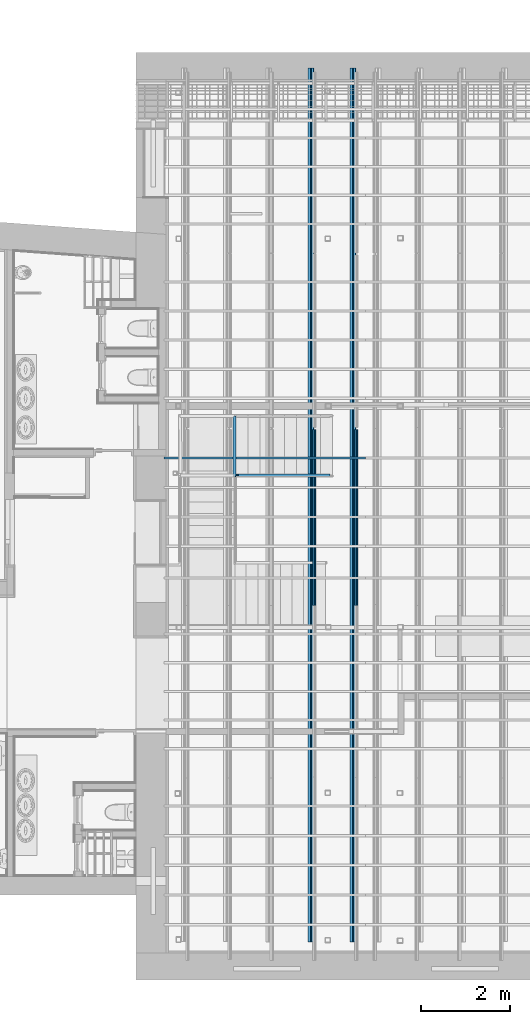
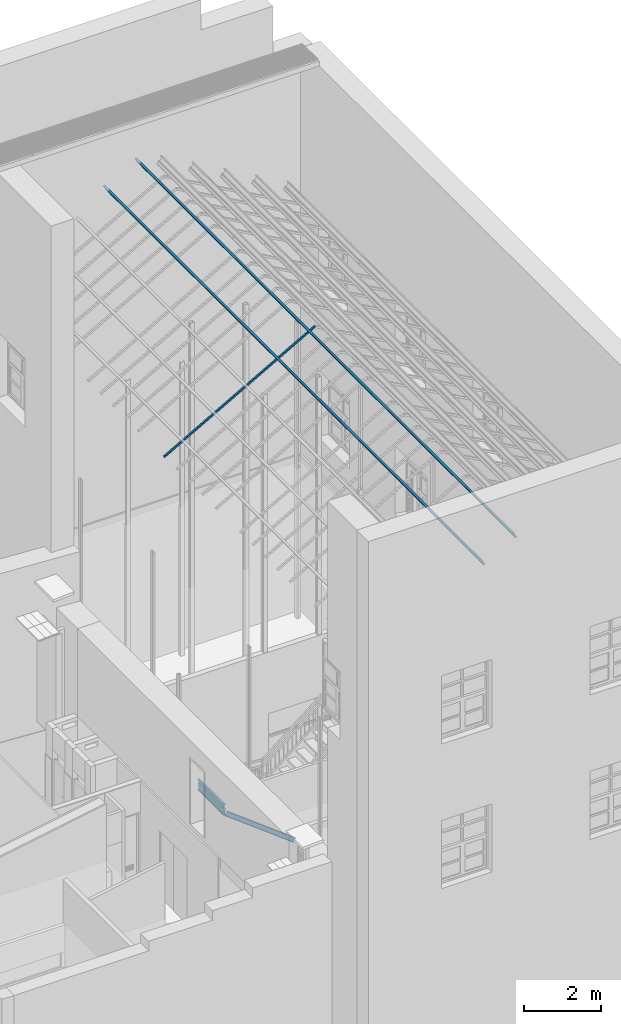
# One storey, part 19 of 75: 8 beams.
"""IFC2X3 building model written with IfcOpenShell, lengths in metres."""

from ifc_helpers import new_model, entity, si_unit, converted_unit, derived_unit, direction, frame, frame_2d, origin, place, context, subcontext, project, spatial, polyline, circle_curve, parameter, trimmed, segment, composite_curve, rectangle, outline, extrude, clip, halfspace, material, type_object, element, save


model = new_model("IFC2X3")

# Units and contexts
model_context = context("Model", 3, precision=1e-05, world=origin(), true_north=direction((6.12303176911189e-17, 1.0)))
body_context = subcontext(model_context, "Body", "Model", "MODEL_VIEW")
ifc_project = project(units=[si_unit("LENGTHUNIT", "METRE"), si_unit("AREAUNIT", "SQUARE_METRE"), si_unit("VOLUMEUNIT", "CUBIC_METRE"), converted_unit("PLANEANGLEUNIT", "DEGREE", entity("IfcRatioMeasure", 0.0174532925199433), si_unit("PLANEANGLEUNIT", "RADIAN"), dimensions=[0, 0, 0, 0, 0, 0, 0]), si_unit("MASSUNIT", "GRAM", prefix="KILO"), derived_unit("MASSDENSITYUNIT", [(si_unit("MASSUNIT", "GRAM", prefix="KILO"), 1), (si_unit("LENGTHUNIT", "METRE"), -3)]), derived_unit("MOMENTOFINERTIAUNIT", [(si_unit("LENGTHUNIT", "METRE"), 4)]), si_unit("TIMEUNIT", "SECOND"), si_unit("FREQUENCYUNIT", "HERTZ"), si_unit("THERMODYNAMICTEMPERATUREUNIT", "DEGREE_CELSIUS"), derived_unit("THERMALTRANSMITTANCEUNIT", [(si_unit("MASSUNIT", "GRAM", prefix="KILO"), 1), (si_unit("THERMODYNAMICTEMPERATUREUNIT", "KELVIN"), -1), (si_unit("TIMEUNIT", "SECOND"), -3)]), derived_unit("VOLUMETRICFLOWRATEUNIT", [(si_unit("LENGTHUNIT", "METRE"), 3), (si_unit("TIMEUNIT", "SECOND"), -1)]), si_unit("ELECTRICCURRENTUNIT", "AMPERE"), si_unit("ELECTRICVOLTAGEUNIT", "VOLT"), si_unit("POWERUNIT", "WATT"), si_unit("FORCEUNIT", "NEWTON", prefix="KILO"), si_unit("ILLUMINANCEUNIT", "LUX"), si_unit("LUMINOUSFLUXUNIT", "LUMEN"), si_unit("LUMINOUSINTENSITYUNIT", "CANDELA"), derived_unit("USERDEFINED", [(si_unit("MASSUNIT", "GRAM", prefix="KILO"), -1), (si_unit("LENGTHUNIT", "METRE"), -2), (si_unit("TIMEUNIT", "SECOND"), 3), (si_unit("LUMINOUSFLUXUNIT", "LUMEN"), 1)]), derived_unit("LINEARVELOCITYUNIT", [(si_unit("LENGTHUNIT", "METRE"), 1), (si_unit("TIMEUNIT", "SECOND"), -1)]), si_unit("PRESSUREUNIT", "PASCAL"), derived_unit("USERDEFINED", [(si_unit("LENGTHUNIT", "METRE"), -2), (si_unit("MASSUNIT", "GRAM", prefix="KILO"), 1), (si_unit("TIMEUNIT", "SECOND"), -2)]), derived_unit("LINEARFORCEUNIT", [(si_unit("MASSUNIT", "GRAM", prefix="KILO"), 1), (si_unit("LENGTHUNIT", "METRE"), 1), (si_unit("TIMEUNIT", "SECOND"), -2), (si_unit("LENGTHUNIT", "METRE"), -1)]), derived_unit("PLANARFORCEUNIT", [(si_unit("MASSUNIT", "GRAM", prefix="KILO"), 1), (si_unit("LENGTHUNIT", "METRE"), 1), (si_unit("TIMEUNIT", "SECOND"), -2), (si_unit("LENGTHUNIT", "METRE"), -2)])], contexts=[model_context])

# Site, building, storey
site_placement = place(None, origin())
site = spatial("IfcSite", under=ifc_project, at=site_placement, Name="Superficie", CompositionType="ELEMENT")
building_placement = place(site_placement, origin())
building = spatial("IfcBuilding", under=site, at=building_placement, Name="Telegestiones", CompositionType="ELEMENT")
storey_placement = place(building_placement, origin())
storey = spatial("IfcBuildingStorey", under=building, at=storey_placement, Name="Nivel 0_NPT", CompositionType="ELEMENT", Elevation=0.0)

# Beams
ifc_material_1 = material(Name="Metal - Acero - 345 MPa")
beam_type_1 = type_object("IfcBeamType", Name="IPN - Secciones en I con alas cónicas:IPN 140", PredefinedType="NOTDEFINED")
beam_1_placement = place(storey_placement, frame((7.5665983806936, 6.21162508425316, 1.80027500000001), z_axis=(0.0, 0.0, 1.0), x_axis=(0.0, -1.0, 0.0)))
element("IfcBeam", 1, at=beam_1_placement, inside=storey, type_object=beam_type_1, material=ifc_material_1, Name="IPN - Secciones en I con alas cónicas:IPN 140", ObjectType="IPN - Secciones en I con alas cónicas:IPN 140", context=body_context, shape_type="SweptSolid", body=[
    clip(extrude(outline(composite_curve([segment(polyline([(-0.0699999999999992, -0.0330000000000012), (-0.0666671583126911, -0.0330000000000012)]), True, "CONTINUOUS"), segment(trimmed(circle_curve(frame_2d((-0.0666671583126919, -0.0296000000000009), x_axis=(0.0, -1.0)), 0.00340000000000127), [parameter(0.0)], [parameter(82.0303896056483)], True, "PARAMETER"), True, "CONTINUOUS"), segment(polyline([(-0.063299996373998, -0.0300714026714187), (-0.0601763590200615, -0.00775970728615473)]), True, "CONTINUOUS"), segment(trimmed(circle_curve(frame_2d((-0.0545314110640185, -0.0085500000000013), x_axis=(-0.990341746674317, 0.138647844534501)), 0.00569999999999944), [parameter(277.969610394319)], [parameter(0.0)], True, "PARAMETER"), False, "CONTINUOUS"), segment(polyline([(-0.0545314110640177, -0.00285000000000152), (0.0545314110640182, -0.00285000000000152)]), True, "CONTINUOUS"), segment(trimmed(circle_curve(frame_2d((0.054531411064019, -0.00855000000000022), x_axis=(0.0, 1.0)), 0.0056999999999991), [parameter(277.969610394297)], [parameter(0.0)], True, "PARAMETER"), False, "CONTINUOUS"), segment(polyline([(0.0601763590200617, -0.00775970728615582), (0.0632999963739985, -0.0300714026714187)]), True, "CONTINUOUS"), segment(trimmed(circle_curve(frame_2d((0.0666671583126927, -0.0296000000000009), x_axis=(-0.990341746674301, -0.138647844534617)), 0.00340000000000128), [parameter(0.0)], [parameter(82.0303896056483)], True, "PARAMETER"), True, "CONTINUOUS"), segment(polyline([(0.0666671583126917, -0.0330000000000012), (0.0700000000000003, -0.0330000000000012)]), True, "CONTINUOUS"), segment(polyline([(0.0700000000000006, -0.0330000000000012), (0.0700000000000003, 0.0329999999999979)]), True, "CONTINUOUS"), segment(polyline([(0.0700000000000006, 0.0329999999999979), (0.0666671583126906, 0.0329999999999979)]), True, "CONTINUOUS"), segment(trimmed(circle_curve(frame_2d((0.0666671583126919, 0.0295999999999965), x_axis=(0.0, 1.0)), 0.00340000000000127), [parameter(0.0)], [parameter(82.0303896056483)], True, "PARAMETER"), True, "CONTINUOUS"), segment(polyline([(0.0632999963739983, 0.0300714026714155), (0.0601763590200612, 0.00775970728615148)]), True, "CONTINUOUS"), segment(trimmed(circle_curve(frame_2d((0.0545314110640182, 0.00854999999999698), x_axis=(0.99034174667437, -0.138647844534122)), 0.00569999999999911), [parameter(277.969610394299)], [parameter(0.0)], True, "PARAMETER"), False, "CONTINUOUS"), segment(polyline([(0.0545314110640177, 0.00284999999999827), (-0.0545314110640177, 0.00284999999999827)]), True, "CONTINUOUS"), segment(trimmed(circle_curve(frame_2d((-0.0545314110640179, 0.00854999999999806), x_axis=(0.0, -1.0)), 0.0056999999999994), [parameter(277.969610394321)], [parameter(0.0)], True, "PARAMETER"), False, "CONTINUOUS"), segment(polyline([(-0.0601763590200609, 0.00775970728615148), (-0.063299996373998, 0.0300714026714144)]), True, "CONTINUOUS"), segment(trimmed(circle_curve(frame_2d((-0.0666671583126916, 0.0295999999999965), x_axis=(0.990341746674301, 0.138647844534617)), 0.00340000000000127), [parameter(0.0)], [parameter(82.0303896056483)], True, "PARAMETER"), True, "CONTINUOUS"), segment(polyline([(-0.0666671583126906, 0.0329999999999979), (-0.0699999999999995, 0.0329999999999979)]), True, "CONTINUOUS"), segment(polyline([(-0.0699999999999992, 0.0329999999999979), (-0.0699999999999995, -0.0330000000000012)]), True, "CONTINUOUS")], self_intersect=False)), frame((0.000133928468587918, 0.0, -0.0700000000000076), z_axis=(1.0, 0.0, 0.0), x_axis=(0.0, 0.0, -1.0)), (0.0, 0.0, 1.0), 1.36713392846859), halfspace(frame((1.30126785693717, -0.0330000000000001, 0.0), z_axis=(0.707106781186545, -0.70710678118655, 0.0), x_axis=(0.70710678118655, 0.707106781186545, 0.0)), False)),
])
beam_2_placement = place(storey_placement, frame((7.5665983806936, 6.21161177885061, 1.603787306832), z_axis=(0.0, 0.0, 1.0), x_axis=(0.0, -1.0, 0.0)))
element("IfcBeam", 2, at=beam_2_placement, inside=storey, type_object=beam_type_1, material=ifc_material_1, Name="IPN - Secciones en I con alas cónicas:IPN 140", ObjectType="IPN - Secciones en I con alas cónicas:IPN 140", context=body_context, shape_type="SweptSolid", body=[
    extrude(outline(composite_curve([segment(polyline([(0.0666671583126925, -0.0330000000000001), (0.0699999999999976, -0.0330000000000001)]), True, "CONTINUOUS"), segment(polyline([(0.070000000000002, -0.0330000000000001), (0.0699999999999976, 0.032999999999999)]), True, "CONTINUOUS"), segment(polyline([(0.0700000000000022, 0.032999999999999), (0.0666671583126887, 0.032999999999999)]), True, "CONTINUOUS"), segment(trimmed(circle_curve(frame_2d((0.0666671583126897, 0.0295999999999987), x_axis=(0.0, 1.0)), 0.00340000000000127), [parameter(0.0)], [parameter(82.0303896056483)], True, "PARAMETER"), True, "CONTINUOUS"), segment(polyline([(0.0632999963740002, 0.0300714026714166), (0.0601763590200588, 0.00775970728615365)]), True, "CONTINUOUS"), segment(trimmed(circle_curve(frame_2d((0.0545314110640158, 0.00854999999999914), x_axis=(0.990341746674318, -0.138647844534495)), 0.00569999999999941), [parameter(277.969610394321)], [parameter(0.0)], True, "PARAMETER"), False, "CONTINUOUS"), segment(polyline([(0.0545314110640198, 0.00284999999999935), (-0.0545314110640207, 0.00284999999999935)]), True, "CONTINUOUS"), segment(trimmed(circle_curve(frame_2d((-0.0545314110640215, 0.00854999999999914), x_axis=(0.0, -1.0)), 0.00569999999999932), [parameter(277.969610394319)], [parameter(0.0)], True, "PARAMETER"), False, "CONTINUOUS"), segment(polyline([(-0.0601763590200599, 0.00775970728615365), (-0.063299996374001, 0.0300714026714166)]), True, "CONTINUOUS"), segment(trimmed(circle_curve(frame_2d((-0.0666671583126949, 0.0295999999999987), x_axis=(0.990341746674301, 0.138647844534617)), 0.00340000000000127), [parameter(0.0)], [parameter(82.0303896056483)], True, "PARAMETER"), True, "CONTINUOUS"), segment(polyline([(-0.0666671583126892, 0.032999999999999), (-0.0700000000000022, 0.032999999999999)]), True, "CONTINUOUS"), segment(polyline([(-0.0699999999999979, 0.032999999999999), (-0.0700000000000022, -0.0330000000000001)]), True, "CONTINUOUS"), segment(polyline([(-0.0699999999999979, -0.0330000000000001), (-0.0666671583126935, -0.0330000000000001)]), True, "CONTINUOUS"), segment(trimmed(circle_curve(frame_2d((-0.0666671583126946, -0.0295999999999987), x_axis=(0.0, -1.0)), 0.00340000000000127), [parameter(0.0)], [parameter(82.0303896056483)], True, "PARAMETER"), True, "CONTINUOUS"), segment(polyline([(-0.0632999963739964, -0.0300714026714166), (-0.0601763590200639, -0.00775970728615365)]), True, "CONTINUOUS"), segment(trimmed(circle_curve(frame_2d((-0.0545314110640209, -0.00855000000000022), x_axis=(-0.990341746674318, 0.138647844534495)), 0.0056999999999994), [parameter(277.969610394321)], [parameter(0.0)], True, "PARAMETER"), False, "CONTINUOUS"), segment(polyline([(-0.0545314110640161, -0.00285000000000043), (0.0545314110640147, -0.00285000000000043)]), True, "CONTINUOUS"), segment(trimmed(circle_curve(frame_2d((0.0545314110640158, -0.00854999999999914), x_axis=(0.0, 1.0)), 0.005699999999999), [parameter(277.969610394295)], [parameter(0.0)], True, "PARAMETER"), False, "CONTINUOUS"), segment(polyline([(0.0601763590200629, -0.00775970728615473), (0.063299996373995, -0.0300714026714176)]), True, "CONTINUOUS"), segment(trimmed(circle_curve(frame_2d((0.0666671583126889, -0.0295999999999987), x_axis=(-0.990341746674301, -0.138647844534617)), 0.00340000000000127), [parameter(0.0)], [parameter(82.0303896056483)], True, "PARAMETER"), True, "CONTINUOUS")], self_intersect=False)), frame((0.000148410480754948, 0.0, -0.0700000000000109), z_axis=(1.0, 0.0, 0.0), x_axis=(0.0, 0.0, -1.0)), (0.0, 0.0, 1.0), 1.35602078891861),
])
beam_3_placement = place(storey_placement, frame((9.6981100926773, 4.87759244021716, -0.00417428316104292), z_axis=(0.605992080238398, 0.0, 0.795470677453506), x_axis=(-0.795470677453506, 0.0, 0.605992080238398)))
element("IfcBeam", 3, at=beam_3_placement, inside=storey, type_object=beam_type_1, material=ifc_material_1, Name="IPN - Secciones en I con alas cónicas:IPN 140", ObjectType="IPN - Secciones en I con alas cónicas:IPN 140", context=body_context, shape_type="SweptSolid", body=[
    extrude(outline(composite_curve([segment(polyline([(-0.0699999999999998, -0.0329999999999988), (-0.066667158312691, -0.0329999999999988)]), True, "CONTINUOUS"), segment(trimmed(circle_curve(frame_2d((-0.0666671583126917, -0.0295999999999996), x_axis=(0.0, -1.0)), 0.00340000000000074), [parameter(0.0)], [parameter(82.0303896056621)], True, "PARAMETER"), True, "CONTINUOUS"), segment(polyline([(-0.0632999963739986, -0.0300714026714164), (-0.0601763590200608, -0.0077597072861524)]), True, "CONTINUOUS"), segment(trimmed(circle_curve(frame_2d((-0.0545314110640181, -0.00854999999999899), x_axis=(-0.99034174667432, 0.138647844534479)), 0.0056999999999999), [parameter(277.969610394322)], [parameter(0.0)], True, "PARAMETER"), False, "CONTINUOUS"), segment(polyline([(-0.0545314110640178, -0.0028499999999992), (0.0545314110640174, -0.0028499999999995)]), True, "CONTINUOUS"), segment(trimmed(circle_curve(frame_2d((0.0545314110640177, -0.00854999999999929), x_axis=(0.0, 1.0)), 0.00569999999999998), [parameter(277.969610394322)], [parameter(0.0)], True, "PARAMETER"), False, "CONTINUOUS"), segment(polyline([(0.0601763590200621, -0.00775970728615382), (0.0632999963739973, -0.0300714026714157)]), True, "CONTINUOUS"), segment(trimmed(circle_curve(frame_2d((0.0666671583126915, -0.0296), x_axis=(-0.990341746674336, -0.138647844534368)), 0.00339999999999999), [parameter(0.0)], [parameter(82.03038960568)], True, "PARAMETER"), True, "CONTINUOUS"), segment(polyline([(0.0666671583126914, -0.0329999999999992), (0.0700000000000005, -0.0329999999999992)]), True, "CONTINUOUS"), segment(polyline([(0.0699999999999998, -0.0329999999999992), (0.0700000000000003, 0.0329999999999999)]), True, "CONTINUOUS"), segment(polyline([(0.0700000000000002, 0.0329999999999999), (0.0666671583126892, 0.0329999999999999)]), True, "CONTINUOUS"), segment(trimmed(circle_curve(frame_2d((0.0666671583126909, 0.0295999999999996), x_axis=(0.0, 1.0)), 0.00340000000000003), [parameter(0.0)], [parameter(82.0303896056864)], True, "PARAMETER"), True, "CONTINUOUS"), segment(polyline([(0.0632999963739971, 0.0300714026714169), (0.0601763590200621, 0.00775970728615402)]), True, "CONTINUOUS"), segment(trimmed(circle_curve(frame_2d((0.0545314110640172, 0.00855000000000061), x_axis=(0.990341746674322, -0.138647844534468)), 0.00570000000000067), [parameter(277.969610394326)], [parameter(0.0)], True, "PARAMETER"), False, "CONTINUOUS"), segment(polyline([(0.0545314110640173, 0.00284999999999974), (-0.0545314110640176, 0.00285000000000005)]), True, "CONTINUOUS"), segment(trimmed(circle_curve(frame_2d((-0.0545314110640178, 0.00855000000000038), x_axis=(0.0, -1.0)), 0.00569999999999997), [parameter(277.969610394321)], [parameter(0.0)], True, "PARAMETER"), False, "CONTINUOUS"), segment(polyline([(-0.0601763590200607, 0.00775970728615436), (-0.0632999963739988, 0.0300714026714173)]), True, "CONTINUOUS"), segment(trimmed(circle_curve(frame_2d((-0.0666671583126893, 0.029600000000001), x_axis=(0.990341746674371, 0.138647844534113)), 0.00339999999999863), [parameter(0.0)], [parameter(82.0303896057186)], True, "PARAMETER"), True, "CONTINUOUS"), segment(polyline([(-0.0666671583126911, 0.0330000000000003), (-0.0700000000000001, 0.0330000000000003)]), True, "CONTINUOUS"), segment(polyline([(-0.0700000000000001, 0.0330000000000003), (-0.0699999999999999, -0.0329999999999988)]), True, "CONTINUOUS")], self_intersect=False)), frame((0.000108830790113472, 0.0, -0.0700000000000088), z_axis=(1.0, 0.0, 0.0), x_axis=(0.0, 0.0, -1.0)), (0.0, 0.0, 1.0), 2.567),
])
beam_type_2 = type_object("IfcBeamType", Name="EST-PER-C-HGalv:C150X19.3", PredefinedType="NOTDEFINED")
beam_4_placement = place(storey_placement, frame((10.2392918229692, 13.523607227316, 15.5982882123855), z_axis=(0.0, 0.0, 1.0), x_axis=(0.0, -1.0, 0.0)))
element("IfcBeam", 4, at=beam_4_placement, inside=storey, type_object=beam_type_2, material=ifc_material_1, Name="EST-PER-C-HGalv:C150X19.3", ObjectType="EST-PER-C-HGalv:C150X19.3", context=body_context, shape_type="SweptSolid", body=[
    extrude(outline(polyline([(-0.0203333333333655, -0.079999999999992), (0.0396666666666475, -0.079999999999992), (0.0396666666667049, 0.0800000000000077), (-0.0203333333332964, 0.0800000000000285), (-0.020333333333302, 0.0600000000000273), (-0.018333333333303, 0.0600000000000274), (-0.0183333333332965, 0.0780000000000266), (0.037666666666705, 0.0780000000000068), (0.0376666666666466, -0.077999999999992), (-0.0183333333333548, -0.0779999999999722), (-0.0183333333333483, -0.059999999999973), (-0.0203333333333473, -0.0599999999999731), (-0.0203333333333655, -0.079999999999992)])), frame((-0.470000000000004, -0.0162169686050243, 0.0827212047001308), z_axis=(1.0, 0.0, 0.0), x_axis=(0.0, -0.870679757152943, -0.4918503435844)), (0.0, 0.0, 1.0), 19.55),
])
beam_5_placement = place(storey_placement, frame((9.29542054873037, 13.523607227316, 15.0650916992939), z_axis=(0.0, 0.0, 1.0), x_axis=(0.0, -1.0, 0.0)))
element("IfcBeam", 5, at=beam_5_placement, inside=storey, type_object=beam_type_2, material=ifc_material_1, Name="EST-PER-C-HGalv:C150X19.3", ObjectType="EST-PER-C-HGalv:C150X19.3", context=body_context, shape_type="SweptSolid", body=[
    extrude(outline(polyline([(-0.0203333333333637, -0.0799999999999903), (0.0396666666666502, -0.0799999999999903), (0.0396666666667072, 0.0800000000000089), (-0.0203333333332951, 0.0800000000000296), (-0.0203333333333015, 0.0600000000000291), (-0.0183333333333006, 0.0600000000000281), (-0.0183333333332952, 0.0780000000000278), (0.0376666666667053, 0.078000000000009), (0.0376666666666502, -0.0779999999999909), (-0.0183333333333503, -0.0779999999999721), (-0.0183333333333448, -0.0599999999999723), (-0.0203333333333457, -0.0599999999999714), (-0.0203333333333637, -0.0799999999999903)])), frame((-0.470000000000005, -0.0162169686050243, 0.082721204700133), z_axis=(1.0, 0.0, 0.0), x_axis=(0.0, -0.870679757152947, -0.491850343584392)), (0.0, 0.0, 1.0), 19.55),
])
beam_type_3 = type_object("IfcBeamType", Name="IPN - Secciones en I con alas cónicas:IPN 80", PredefinedType="NOTDEFINED")
beam_6_placement = place(storey_placement, frame((10.2618424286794, 1.9848072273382, 15.6110271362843), z_axis=(0.0, 0.0, 1.0), x_axis=(0.0, 1.0, 0.0)))
element("IfcBeam", 6, at=beam_6_placement, inside=storey, type_object=beam_type_3, material=ifc_material_1, Name="IPN - Secciones en I con alas cónicas:IPN 80", ObjectType="IPN - Secciones en I con alas cónicas:IPN 80", context=body_context, shape_type="SweptSolid", body=[
    extrude(outline(composite_curve([segment(polyline([(-0.0210000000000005, -0.0400000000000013), (0.0210000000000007, -0.0400000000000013)]), True, "CONTINUOUS"), segment(polyline([(0.0209999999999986, -0.0399999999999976), (0.0210000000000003, -0.0375704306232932)]), True, "CONTINUOUS"), segment(trimmed(circle_curve(frame_2d((0.0186999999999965, -0.0375704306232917), x_axis=(1.0, 0.0)), 0.00230000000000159), [parameter(0.0)], [parameter(82.0303896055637)], True, "PARAMETER"), True, "CONTINUOUS"), segment(polyline([(0.0190188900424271, -0.0352926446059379), (0.00530927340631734, -0.0333732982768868)]), True, "CONTINUOUS"), segment(trimmed(circle_curve(frame_2d((0.00584999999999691, -0.029510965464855), x_axis=(-0.138647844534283, -0.990341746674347)), 0.0038999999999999), [parameter(277.969610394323)], [parameter(0.0)], True, "PARAMETER"), False, "CONTINUOUS"), segment(polyline([(0.0019499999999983, -0.0295109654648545), (0.00194999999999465, 0.0295109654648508)]), True, "CONTINUOUS"), segment(trimmed(circle_curve(frame_2d((0.00584999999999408, 0.0295109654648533), x_axis=(-1.0, 0.0)), 0.00390000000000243), [parameter(277.969610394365)], [parameter(0.0)], True, "PARAMETER"), False, "CONTINUOUS"), segment(polyline([(0.00530927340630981, 0.0333732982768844), (0.019018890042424, 0.0352926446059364)]), True, "CONTINUOUS"), segment(trimmed(circle_curve(frame_2d((0.0186999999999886, 0.0375704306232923), x_axis=(0.138647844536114, -0.990341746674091)), 0.00230000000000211), [parameter(0.0)], [parameter(82.0303896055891)], True, "PARAMETER"), True, "CONTINUOUS"), segment(polyline([(0.0209999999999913, 0.0375704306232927), (0.020999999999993, 0.0399999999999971)]), True, "CONTINUOUS"), segment(polyline([(0.0209999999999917, 0.0400000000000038), (-0.0210000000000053, 0.0399999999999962)]), True, "CONTINUOUS"), segment(polyline([(-0.0210000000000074, 0.04), (-0.0210000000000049, 0.0375704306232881)]), True, "CONTINUOUS"), segment(trimmed(circle_curve(frame_2d((-0.0187000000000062, 0.0375704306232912), x_axis=(-1.0, 0.0)), 0.00230000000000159), [parameter(0.0)], [parameter(82.0303896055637)], True, "PARAMETER"), True, "CONTINUOUS"), segment(polyline([(-0.019018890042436, 0.0352926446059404), (-0.00530927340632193, 0.0333732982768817)]), True, "CONTINUOUS"), segment(trimmed(circle_curve(frame_2d((-0.00585000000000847, 0.0295109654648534), x_axis=(0.138647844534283, 0.990341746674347)), 0.0038999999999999), [parameter(277.969610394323)], [parameter(0.0)], True, "PARAMETER"), False, "CONTINUOUS"), segment(polyline([(-0.00195000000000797, 0.029510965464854), (-0.00195000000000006, -0.0295109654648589)]), True, "CONTINUOUS"), segment(trimmed(circle_curve(frame_2d((-0.00585000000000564, -0.0295109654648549), x_axis=(1.0, 0.0)), 0.00390000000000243), [parameter(277.969610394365)], [parameter(0.0)], True, "PARAMETER"), False, "CONTINUOUS"), segment(polyline([(-0.0053092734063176, -0.0333732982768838), (-0.0190188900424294, -0.0352926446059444)]), True, "CONTINUOUS"), segment(trimmed(circle_curve(frame_2d((-0.0186999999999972, -0.0375704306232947), x_axis=(-0.138647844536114, 0.990341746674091)), 0.00230000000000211), [parameter(0.0)], [parameter(82.0303896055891)], True, "PARAMETER"), True, "CONTINUOUS"), segment(polyline([(-0.0210000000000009, -0.0375704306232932), (-0.0209999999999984, -0.0400000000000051)]), True, "CONTINUOUS")], self_intersect=False)), frame((-0.0138500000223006, -0.0245925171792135, -0.0435339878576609), z_axis=(1.0, 0.0, 0.0), x_axis=(0.0, -0.870679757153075, 0.491850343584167)), (0.0, 0.0, 1.0), 3.93865000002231),
])
beam_7_placement = place(storey_placement, frame((9.31797115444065, 1.9848072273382, 15.0778306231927), z_axis=(0.0, 0.0, 1.0), x_axis=(0.0, 1.0, 0.0)))
element("IfcBeam", 7, at=beam_7_placement, inside=storey, type_object=beam_type_3, material=ifc_material_1, Name="IPN - Secciones en I con alas cónicas:IPN 80", ObjectType="IPN - Secciones en I con alas cónicas:IPN 80", context=body_context, shape_type="SweptSolid", body=[
    extrude(outline(composite_curve([segment(polyline([(-0.0209999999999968, -0.0399999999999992), (0.0210000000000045, -0.0399999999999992)]), True, "CONTINUOUS"), segment(polyline([(0.0210000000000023, -0.0399999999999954), (0.0210000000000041, -0.0375704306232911)]), True, "CONTINUOUS"), segment(trimmed(circle_curve(frame_2d((0.0187000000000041, -0.0375704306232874), x_axis=(1.0, 0.0)), 0.00229999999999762), [parameter(0.0)], [parameter(82.0303896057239)], True, "PARAMETER"), True, "CONTINUOUS"), segment(polyline([(0.01901889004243, -0.0352926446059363), (0.00530927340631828, -0.0333732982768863)]), True, "CONTINUOUS"), segment(trimmed(circle_curve(frame_2d((0.00585000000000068, -0.0295109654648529), x_axis=(-0.138647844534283, -0.990341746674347)), 0.00389999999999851), [parameter(277.969610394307)], [parameter(0.0)], True, "PARAMETER"), False, "CONTINUOUS"), segment(polyline([(0.00195000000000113, -0.0295109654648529), (0.00194999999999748, 0.0295109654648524)]), True, "CONTINUOUS"), segment(trimmed(circle_curve(frame_2d((0.00584999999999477, 0.0295109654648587), x_axis=(-1.0, 0.0)), 0.00389999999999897), [parameter(277.969610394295)], [parameter(0.0)], True, "PARAMETER"), False, "CONTINUOUS"), segment(polyline([(0.00530927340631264, 0.033373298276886), (0.0190188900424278, 0.0352926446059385)]), True, "CONTINUOUS"), segment(trimmed(circle_curve(frame_2d((0.0186999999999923, 0.0375704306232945), x_axis=(0.138647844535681, -0.990341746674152)), 0.00230000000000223), [parameter(0.0)], [parameter(82.0303896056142)], True, "PARAMETER"), True, "CONTINUOUS"), segment(polyline([(0.020999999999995, 0.0375704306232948), (0.0209999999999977, 0.0399999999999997)]), True, "CONTINUOUS"), segment(polyline([(0.0209999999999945, 0.0400000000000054), (-0.0210000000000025, 0.0399999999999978)]), True, "CONTINUOUS"), segment(polyline([(-0.0210000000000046, 0.0400000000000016), (-0.021000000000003, 0.0375704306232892)]), True, "CONTINUOUS"), segment(trimmed(circle_curve(frame_2d((-0.0187000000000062, 0.0375704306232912), x_axis=(-1.0, 0.0)), 0.00229999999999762), [parameter(0.0)], [parameter(82.0303896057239)], True, "PARAMETER"), True, "CONTINUOUS"), segment(polyline([(-0.0190188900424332, 0.035292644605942), (-0.00530927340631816, 0.0333732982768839)]), True, "CONTINUOUS"), segment(trimmed(circle_curve(frame_2d((-0.00585000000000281, 0.0295109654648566), x_axis=(0.138647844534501, 0.990341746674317)), 0.00390000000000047), [parameter(277.969610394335)], [parameter(0.0)], True, "PARAMETER"), False, "CONTINUOUS"), segment(polyline([(-0.00195000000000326, 0.0295109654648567), (-0.00194999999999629, -0.0295109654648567)]), True, "CONTINUOUS"), segment(trimmed(circle_curve(frame_2d((-0.00584999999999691, -0.0295109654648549), x_axis=(1.0, 0.0)), 0.00389999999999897), [parameter(277.969610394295)], [parameter(0.0)], True, "PARAMETER"), False, "CONTINUOUS"), segment(polyline([(-0.00530927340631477, -0.0333732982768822), (-0.0190188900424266, -0.0352926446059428)]), True, "CONTINUOUS"), segment(trimmed(circle_curve(frame_2d((-0.0186999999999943, -0.0375704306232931), x_axis=(-0.13864784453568, 0.990341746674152)), 0.00230000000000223), [parameter(0.0)], [parameter(82.0303896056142)], True, "PARAMETER"), True, "CONTINUOUS"), segment(polyline([(-0.0209999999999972, -0.0375704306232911), (-0.0209999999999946, -0.040000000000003)]), True, "CONTINUOUS")], self_intersect=False)), frame((-0.0138500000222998, -0.0245925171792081, -0.0435339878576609), z_axis=(1.0, 0.0, 0.0), x_axis=(0.0, -0.870679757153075, 0.491850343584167)), (0.0, 0.0, 1.0), 3.93865000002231),
])
ifc_material_2 = material(Name="Madera - Madera de construcción")
beam_type_4 = type_object("IfcBeamType", Name="Madera:50x50mm", PredefinedType="NOTDEFINED")
beam_8_placement = place(storey_placement, frame((6.01059937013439, 5.27344056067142, 13.2094835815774), z_axis=(-0.491850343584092, 0.0, 0.870679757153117), x_axis=(0.870679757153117, 0.0, 0.491850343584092)))
element("IfcBeam", 8, at=beam_8_placement, inside=storey, type_object=beam_type_4, material=ifc_material_2, Name="Madera:50x50mm", ObjectType="Madera:50x50mm", context=body_context, shape_type="SweptSolid", body=[
    clip(extrude(rectangle(XDim=0.0500000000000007, YDim=0.0500000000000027, at=frame_2d((2.65412691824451e-16, -5.41233724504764e-16), x_axis=(1.0, 0.0))), frame((-0.0851437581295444, 0.0, -0.115), z_axis=(1.0, 0.0, 0.0), x_axis=(0.0, 0.0, -1.0)), (0.0, 0.0, 1.0), 5.18302027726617), halfspace(frame((5.06963132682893, 0.0, -0.140000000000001), z_axis=(0.870679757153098, 0.0, -0.491850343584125), x_axis=(0.0, -1.0, 0.0)), False)),
])

save(model, "model.ifc")
